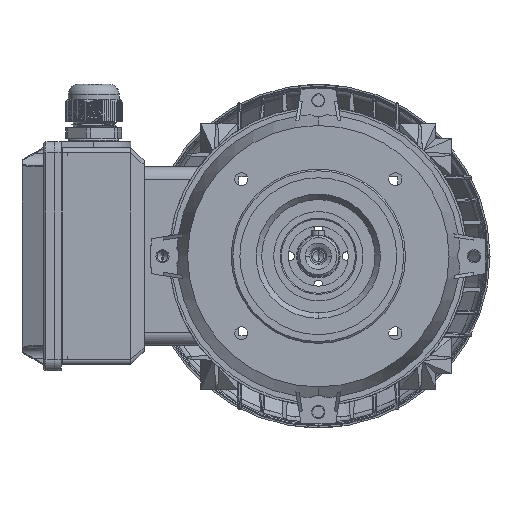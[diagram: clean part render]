
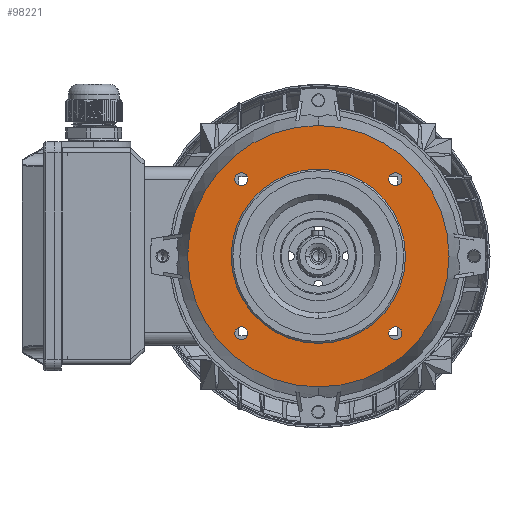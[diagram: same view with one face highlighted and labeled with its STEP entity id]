
A CAD part, left-side view. The second image highlights one B-rep face of the part: STEP entity #98221.
In plain terms, the highlighted planar face has unit normal (-1, 0, 0).
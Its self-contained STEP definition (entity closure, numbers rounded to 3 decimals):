
#39789 = CARTESIAN_POINT ( 'NONE',  ( -13., -35.355, 32.355 ) ) ;
#40149 = AXIS2_PLACEMENT_3D ( 'NONE', #40277, #40276, #40274 ) ;
#40168 = CARTESIAN_POINT ( 'NONE',  ( -13., -35.355, -32.355 ) ) ;
#40170 = CIRCLE ( 'NONE', #40149, 3. ) ;
#40239 = CARTESIAN_POINT ( 'NONE',  ( -13., 35.355, -38.355 ) ) ;
#40241 = CARTESIAN_POINT ( 'NONE',  ( -13., 35.355, 32.355 ) ) ;
#40274 = DIRECTION ( 'NONE',  ( 0., 0., 1. ) ) ;
#40276 = DIRECTION ( 'NONE',  ( -1., 0., 0. ) ) ;
#40277 = CARTESIAN_POINT ( 'NONE',  ( -13., -35.355, -35.355 ) ) ;
#40286 = CARTESIAN_POINT ( 'NONE',  ( -13., -35.355, 38.355 ) ) ;
#40372 = DIRECTION ( 'NONE',  ( 0., 0., 1. ) ) ;
#40373 = DIRECTION ( 'NONE',  ( -1., 0., 0. ) ) ;
#40375 = AXIS2_PLACEMENT_3D ( 'NONE', #40387, #40373, #40372 ) ;
#40384 = CARTESIAN_POINT ( 'NONE',  ( -13., 35.355, -32.355 ) ) ;
#40387 = CARTESIAN_POINT ( 'NONE',  ( -13., -35.355, 35.355 ) ) ;
#40421 = CARTESIAN_POINT ( 'NONE',  ( -13., -35.355, -38.355 ) ) ;
#40427 = CIRCLE ( 'NONE', #40375, 3. ) ;
#40476 = CIRCLE ( 'NONE', #40558, 3. ) ;
#40490 = CARTESIAN_POINT ( 'NONE',  ( -13., 35.355, -35.355 ) ) ;
#40527 = DIRECTION ( 'NONE',  ( 0., 0., 1. ) ) ;
#40529 = DIRECTION ( 'NONE',  ( -1., 0., 0. ) ) ;
#40558 = AXIS2_PLACEMENT_3D ( 'NONE', #40490, #40529, #40527 ) ;
#41124 = CARTESIAN_POINT ( 'NONE',  ( -13., 0., -60. ) ) ;
#42945 = CARTESIAN_POINT ( 'NONE',  ( -13., 0., -40. ) ) ;
#43802 = CARTESIAN_POINT ( 'NONE',  ( -13., 0., 40. ) ) ;
#44145 = CARTESIAN_POINT ( 'NONE',  ( -13., 0., 60. ) ) ;
#44151 = DIRECTION ( 'NONE',  ( 0., 0., 1. ) ) ;
#44152 = DIRECTION ( 'NONE',  ( -1., 0., 0. ) ) ;
#44154 = AXIS2_PLACEMENT_3D ( 'NONE', #44192, #44152, #44151 ) ;
#44184 = CIRCLE ( 'NONE', #44154, 60. ) ;
#44192 = CARTESIAN_POINT ( 'NONE',  ( -13., 0., 0. ) ) ;
#44289 = AXIS2_PLACEMENT_3D ( 'NONE', #44394, #44393, #44391 ) ;
#44304 = CIRCLE ( 'NONE', #44289, 40. ) ;
#44391 = DIRECTION ( 'NONE',  ( 0., 0., 1. ) ) ;
#44393 = DIRECTION ( 'NONE',  ( -1., 0., 0. ) ) ;
#44394 = CARTESIAN_POINT ( 'NONE',  ( -13., 0., 0. ) ) ;
#76893 = FACE_BOUND ( 'NONE', #98220, .T. ) ;
#76922 = CIRCLE ( 'NONE', #76924, 3. ) ;
#76924 = AXIS2_PLACEMENT_3D ( 'NONE', #76929, #76927, #76975 ) ;
#76925 = FACE_OUTER_BOUND ( 'NONE', #98249, .T. ) ;
#76927 = DIRECTION ( 'NONE',  ( -1., 0., 0. ) ) ;
#76928 = FACE_BOUND ( 'NONE', #98256, .T. ) ;
#76929 = CARTESIAN_POINT ( 'NONE',  ( -13., -35.355, 35.355 ) ) ;
#76930 = AXIS2_PLACEMENT_3D ( 'NONE', #76986, #76985, #76984 ) ;
#76931 = FACE_BOUND ( 'NONE', #99275, .T. ) ;
#76932 = FACE_BOUND ( 'NONE', #98274, .T. ) ;
#76934 = PLANE ( 'NONE',  #76930 ) ;
#76935 = DIRECTION ( 'NONE',  ( 0., 0., 1. ) ) ;
#76936 = DIRECTION ( 'NONE',  ( -1., 0., 0. ) ) ;
#76937 = CARTESIAN_POINT ( 'NONE',  ( -13., 0., 0. ) ) ;
#76938 = AXIS2_PLACEMENT_3D ( 'NONE', #76937, #76936, #76935 ) ;
#76939 = CIRCLE ( 'NONE', #76938, 40. ) ;
#76942 = FACE_BOUND ( 'NONE', #98263, .T. ) ;
#76960 = CARTESIAN_POINT ( 'NONE',  ( -13., 35.355, 35.355 ) ) ;
#76963 = DIRECTION ( 'NONE',  ( -1., 0., 0. ) ) ;
#76975 = DIRECTION ( 'NONE',  ( 0., 0., 1. ) ) ;
#76979 = CIRCLE ( 'NONE', #76990, 3. ) ;
#76984 = DIRECTION ( 'NONE',  ( 0., 0., -1. ) ) ;
#76985 = DIRECTION ( 'NONE',  ( 1., 0., 0. ) ) ;
#76986 = CARTESIAN_POINT ( 'NONE',  ( -13., 40., 0. ) ) ;
#76989 = DIRECTION ( 'NONE',  ( 0., 0., 1. ) ) ;
#76990 = AXIS2_PLACEMENT_3D ( 'NONE', #76960, #76963, #76989 ) ;
#77135 = CARTESIAN_POINT ( 'NONE',  ( -13., 35.355, -35.355 ) ) ;
#77139 = DIRECTION ( 'NONE',  ( 0., 0., 1. ) ) ;
#77140 = DIRECTION ( 'NONE',  ( -1., 0., 0. ) ) ;
#77141 = CARTESIAN_POINT ( 'NONE',  ( -13., -35.355, -35.355 ) ) ;
#77143 = CIRCLE ( 'NONE', #77195, 3. ) ;
#77146 = AXIS2_PLACEMENT_3D ( 'NONE', #77141, #77140, #77139 ) ;
#77156 = CIRCLE ( 'NONE', #77146, 3. ) ;
#77193 = DIRECTION ( 'NONE',  ( 0., 0., 1. ) ) ;
#77194 = DIRECTION ( 'NONE',  ( -1., 0., 0. ) ) ;
#77195 = AXIS2_PLACEMENT_3D ( 'NONE', #77135, #77194, #77193 ) ;
#77495 = DIRECTION ( 'NONE',  ( 0., 0., 1. ) ) ;
#77496 = DIRECTION ( 'NONE',  ( -1., 0., 0. ) ) ;
#77497 = CARTESIAN_POINT ( 'NONE',  ( -13., 0., 0. ) ) ;
#77498 = AXIS2_PLACEMENT_3D ( 'NONE', #77497, #77496, #77495 ) ;
#77499 = CIRCLE ( 'NONE', #77498, 60. ) ;
#79027 = CIRCLE ( 'NONE', #79074, 3. ) ;
#79058 = DIRECTION ( 'NONE',  ( 0., 0., 1. ) ) ;
#79059 = DIRECTION ( 'NONE',  ( -1., 0., 0. ) ) ;
#79060 = CARTESIAN_POINT ( 'NONE',  ( -13., 35.355, 35.355 ) ) ;
#79074 = AXIS2_PLACEMENT_3D ( 'NONE', #79060, #79059, #79058 ) ;
#79156 = CARTESIAN_POINT ( 'NONE',  ( -13., 35.355, 38.355 ) ) ;
#91686 = VERTEX_POINT ( 'NONE', #39789 ) ;
#91759 = VERTEX_POINT ( 'NONE', #40168 ) ;
#91762 = EDGE_CURVE ( 'NONE', #91787, #91759, #40170, .T. ) ;
#91764 = VERTEX_POINT ( 'NONE', #40241 ) ;
#91765 = VERTEX_POINT ( 'NONE', #40239 ) ;
#91786 = VERTEX_POINT ( 'NONE', #40286 ) ;
#91787 = VERTEX_POINT ( 'NONE', #40421 ) ;
#91789 = EDGE_CURVE ( 'NONE', #91686, #91786, #40427, .T. ) ;
#91800 = VERTEX_POINT ( 'NONE', #40384 ) ;
#91820 = EDGE_CURVE ( 'NONE', #91765, #91800, #40476, .T. ) ;
#92457 = VERTEX_POINT ( 'NONE', #43802 ) ;
#92518 = VERTEX_POINT ( 'NONE', #41124 ) ;
#92520 = VERTEX_POINT ( 'NONE', #42945 ) ;
#92530 = EDGE_CURVE ( 'NONE', #92533, #92518, #44184, .T. ) ;
#92533 = VERTEX_POINT ( 'NONE', #44145 ) ;
#92570 = EDGE_CURVE ( 'NONE', #92457, #92520, #44304, .T. ) ;
#93286 = ORIENTED_EDGE ( 'NONE', *, *, #98284, .F. ) ;
#98217 = EDGE_CURVE ( 'NONE', #92520, #92457, #76939, .T. ) ;
#98220 = EDGE_LOOP ( 'NONE', ( #93286, #98279 ) ) ;
#98221 = ADVANCED_FACE ( 'NONE', ( #76931, #76893, #76942, #76932, #76928, #76925 ), #76934, .F. ) ;
#98222 = ORIENTED_EDGE ( 'NONE', *, *, #91789, .F. ) ;
#98223 = ORIENTED_EDGE ( 'NONE', *, *, #98229, .F. ) ;
#98229 = EDGE_CURVE ( 'NONE', #91786, #91686, #76922, .T. ) ;
#98231 = ORIENTED_EDGE ( 'NONE', *, *, #98246, .F. ) ;
#98236 = ORIENTED_EDGE ( 'NONE', *, *, #98311, .T. ) ;
#98246 = EDGE_CURVE ( 'NONE', #98725, #91764, #76979, .T. ) ;
#98249 = EDGE_LOOP ( 'NONE', ( #98301, #98236 ) ) ;
#98253 = ORIENTED_EDGE ( 'NONE', *, *, #92570, .F. ) ;
#98256 = EDGE_LOOP ( 'NONE', ( #98253, #98303 ) ) ;
#98262 = ORIENTED_EDGE ( 'NONE', *, *, #98286, .F. ) ;
#98263 = EDGE_LOOP ( 'NONE', ( #98262, #98264 ) ) ;
#98264 = ORIENTED_EDGE ( 'NONE', *, *, #91820, .F. ) ;
#98274 = EDGE_LOOP ( 'NONE', ( #98231, #98300 ) ) ;
#98279 = ORIENTED_EDGE ( 'NONE', *, *, #91762, .F. ) ;
#98284 = EDGE_CURVE ( 'NONE', #91759, #91787, #77156, .T. ) ;
#98286 = EDGE_CURVE ( 'NONE', #91800, #91765, #77143, .T. ) ;
#98300 = ORIENTED_EDGE ( 'NONE', *, *, #98677, .F. ) ;
#98301 = ORIENTED_EDGE ( 'NONE', *, *, #92530, .T. ) ;
#98303 = ORIENTED_EDGE ( 'NONE', *, *, #98217, .F. ) ;
#98311 = EDGE_CURVE ( 'NONE', #92518, #92533, #77499, .T. ) ;
#98677 = EDGE_CURVE ( 'NONE', #91764, #98725, #79027, .T. ) ;
#98725 = VERTEX_POINT ( 'NONE', #79156 ) ;
#99275 = EDGE_LOOP ( 'NONE', ( #98223, #98222 ) ) ;
